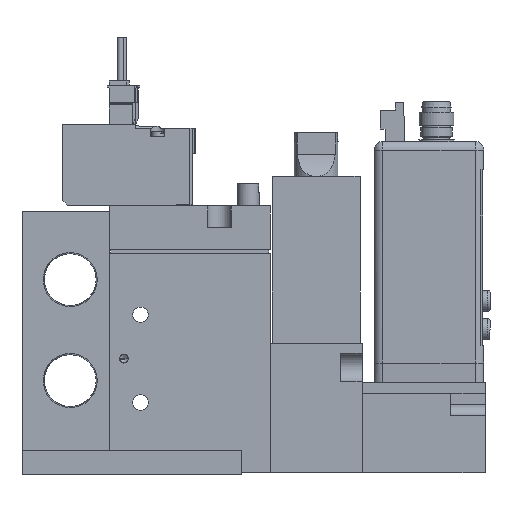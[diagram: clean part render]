
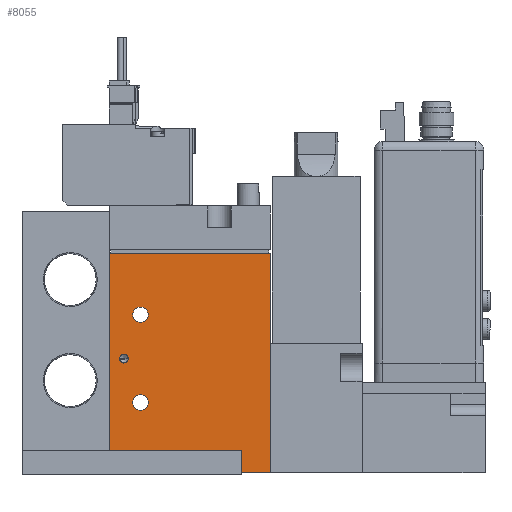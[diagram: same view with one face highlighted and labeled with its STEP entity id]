
A CAD part, left-side view. The second image highlights one B-rep face of the part: STEP entity #8055.
In plain terms, the highlighted planar face has unit normal (-1, 0, 0) as drawn and (1, 0, 0) by its records, which use the part's own axes.
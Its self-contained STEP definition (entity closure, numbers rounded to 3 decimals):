
#8055=ADVANCED_FACE('',(#17278,#17279,#17280,#17281),#17282,.F.);
#17278=FACE_BOUND('',#29725,.T.);
#17279=FACE_BOUND('',#29726,.T.);
#17280=FACE_BOUND('',#29727,.T.);
#17281=FACE_OUTER_BOUND('',#29728,.T.);
#17282=PLANE('',#29729);
#29725=EDGE_LOOP('',(#57818));
#29726=EDGE_LOOP('',(#57819));
#29727=EDGE_LOOP('',(#57820));
#29728=EDGE_LOOP('',(#57821,#57822,#57823,#57824));
#29729=AXIS2_PLACEMENT_3D('',#57825,#57826,#57827);
#57818=ORIENTED_EDGE('',*,*,#85748,.F.);
#57819=ORIENTED_EDGE('',*,*,#85762,.T.);
#57820=ORIENTED_EDGE('',*,*,#85764,.T.);
#57821=ORIENTED_EDGE('',*,*,#85743,.T.);
#57822=ORIENTED_EDGE('',*,*,#85766,.F.);
#57823=ORIENTED_EDGE('',*,*,#85759,.F.);
#57824=ORIENTED_EDGE('',*,*,#85763,.T.);
#57825=CARTESIAN_POINT('',(8.5,-19.444,50.0));
#57826=DIRECTION('',(-1.0,0.0,0.0));
#57827=DIRECTION('',(0.0,0.0,1.0));
#85743=EDGE_CURVE('',#103897,#103895,#103898,.T.);
#85748=EDGE_CURVE('',#103906,#103906,#103907,.T.);
#85759=EDGE_CURVE('',#103923,#103925,#103926,.T.);
#85762=EDGE_CURVE('',#103928,#103928,#103929,.T.);
#85763=EDGE_CURVE('',#103923,#103897,#103930,.T.);
#85764=EDGE_CURVE('',#103931,#103931,#103932,.T.);
#85766=EDGE_CURVE('',#103925,#103895,#103933,.T.);
#103895=VERTEX_POINT('',#132828);
#103897=VERTEX_POINT('',#132831);
#103898=LINE('',#132832,#132833);
#103906=VERTEX_POINT('',#132842);
#103907=CIRCLE('',#132843,1.0);
#103923=VERTEX_POINT('',#132862);
#103925=VERTEX_POINT('',#132865);
#103926=LINE('',#132866,#132867);
#103928=VERTEX_POINT('',#132870);
#103929=CIRCLE('',#132871,1.75);
#103930=LINE('',#132872,#132873);
#103931=VERTEX_POINT('',#132874);
#103932=CIRCLE('',#132875,1.75);
#103933=LINE('',#132876,#132877);
#132828=CARTESIAN_POINT('',(8.5,17.056,0.0));
#132831=CARTESIAN_POINT('',(8.5,-19.444,0.0));
#132832=CARTESIAN_POINT('',(8.5,-19.444,0.0));
#132833=VECTOR('',#158558,1.0);
#132842=CARTESIAN_POINT('',(8.5,-17.244,26.0));
#132843=AXIS2_PLACEMENT_3D('',#158569,#158570,#158571);
#132862=CARTESIAN_POINT('',(8.5,-19.444,50.0));
#132865=CARTESIAN_POINT('',(8.5,17.056,50.0));
#132866=CARTESIAN_POINT('',(8.5,-19.444,50.0));
#132867=VECTOR('',#158591,1.0);
#132870=CARTESIAN_POINT('',(8.5,-10.694,36.0));
#132871=AXIS2_PLACEMENT_3D('',#158593,#158594,#158595);
#132872=CARTESIAN_POINT('',(8.5,-19.444,50.0));
#132873=VECTOR('',#158596,1.0);
#132874=CARTESIAN_POINT('',(8.5,-10.694,16.0));
#132875=AXIS2_PLACEMENT_3D('',#158597,#158598,#158599);
#132876=CARTESIAN_POINT('',(8.5,17.056,50.0));
#132877=VECTOR('',#158600,1.0);
#158558=DIRECTION('',(0.0,1.0,0.0));
#158569=CARTESIAN_POINT('',(8.5,-16.244,26.0));
#158570=DIRECTION('',(1.0,0.,0.0));
#158571=DIRECTION('',(0.,-1.0,0.0));
#158591=DIRECTION('',(0.0,1.0,0.0));
#158593=CARTESIAN_POINT('',(8.5,-12.444,36.0));
#158594=DIRECTION('',(-1.0,0.0,0.0));
#158595=DIRECTION('',(0.0,1.0,0.0));
#158596=DIRECTION('',(0.0,0.0,-1.0));
#158597=CARTESIAN_POINT('',(8.5,-12.444,16.0));
#158598=DIRECTION('',(-1.0,0.0,0.0));
#158599=DIRECTION('',(0.0,1.0,0.0));
#158600=DIRECTION('',(0.0,0.0,-1.0));
